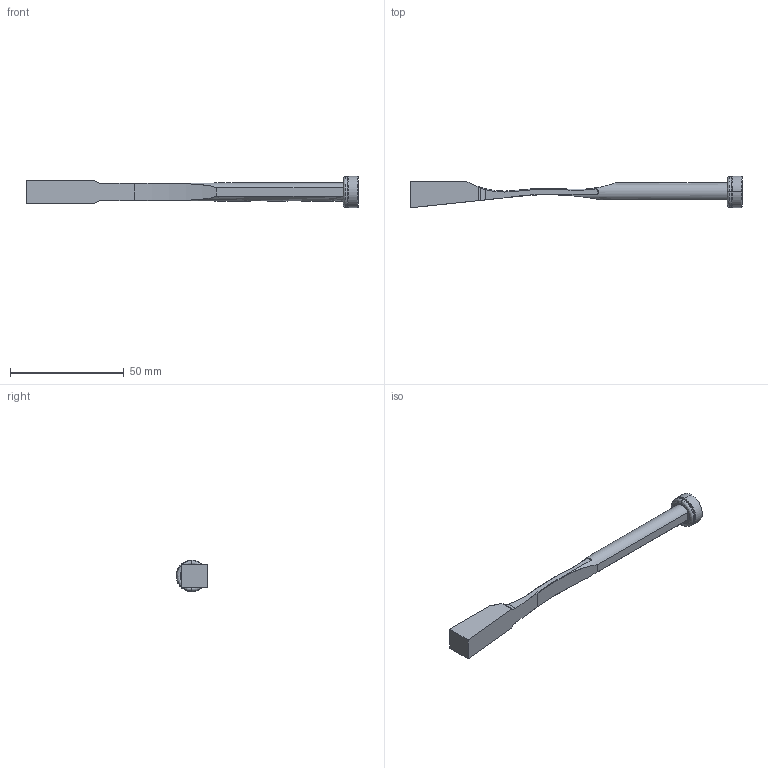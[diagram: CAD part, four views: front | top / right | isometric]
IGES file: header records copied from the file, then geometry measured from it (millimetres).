
Start section: START RECORD GO HERE.
Global section: file name: pw081025_injection.igs; native system: DASSAULT SYSTEMES CATIA V5 R20 - www.3ds.com; preprocessor: CATIA Version 5 Release 20 ; author: Utente; organization: NB04-ASUS; date: 20201108.135237; units: millimetre
Bounding box: 146 x 13.9 x 13.8 mm (x, y, z)
Surface area: 5776.4 mm2 (no closed solid volume)
Topology: 0 solids, 0 shells, 96 faces, 440 edges, 436 vertices
Faces by surface type: revolution 54, plane 34, bspline 8
